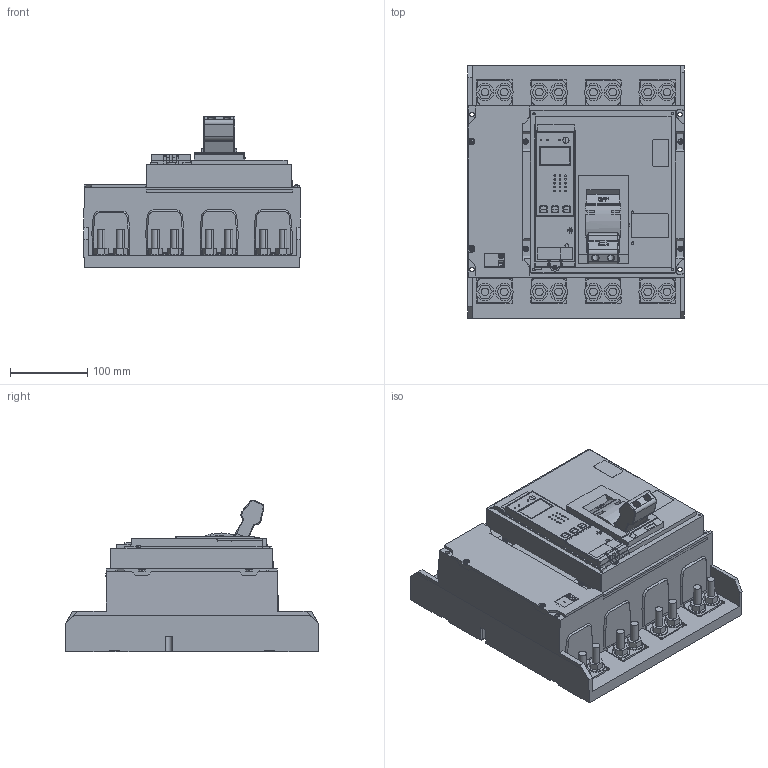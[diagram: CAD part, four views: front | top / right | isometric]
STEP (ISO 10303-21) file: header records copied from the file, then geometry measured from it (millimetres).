
FILE_DESCRIPTION((''),'2;1');
FILE_NAME('1649246885031_ASM','2022-04-06T17:38:32',('SESA621925'),('Schneider-Electric'),'CREO PARAMETRIC BY PTC INC, 2019471','CREO PARAMETRIC BY PTC INC, 2019471','');
FILE_SCHEMA(('AP242_MANAGED_MODEL_BASED_3D_ENGINEERING_MIM_LF { 1 0 10303 442 1 1 4 }'));
Products named in the file (14): EMPTYNODE_1649246885111_ASM; C063N420FM_1; 0444121500; C063N420FM_ASM; C063N420FM-3D_ASM; COVER-ASSY-C063N320FM_C_1; COVER-ASSY-C063N320FM-3D_ASM; HANDLE-ASSY-C063N320FM; HANDLE-ASSY-C063N320FM-3D_ASM; 35068; 0444320800_C; 35068_ASM; 35068-3D_ASM; 1649246885031_ASM
Assembly tree (13 placements, depth 4):
  1649246885031_ASM
    EMPTYNODE_1649246885111_ASM
    C063N420FM-3D_ASM
      C063N420FM_ASM
        C063N420FM_1
        0444121500
    COVER-ASSY-C063N320FM-3D_ASM
      COVER-ASSY-C063N320FM_C_1
    HANDLE-ASSY-C063N320FM-3D_ASM
      HANDLE-ASSY-C063N320FM
    35068-3D_ASM
      35068_ASM
        35068
        0444320800_C
Bounding box: 280 x 326.53 x 196.18 mm (x, y, z)
Volume: 7199960.4 mm3; surface area: 665483.4 mm2
Topology: 18 solids, 18 shells, 2723 faces, 7459 edges, 4953 vertices
Faces by surface type: plane 1972, cylinder 601, bspline 44, torus 42, extrusion 34, cone 22, sphere 8
Entity records: 125037 total; most frequent: CARTESIAN_POINT 18992, ORIENTED_EDGE 14836, DIRECTION 14049, PRESENTATION_STYLE_ASSIGNMENT 8542, STYLED_ITEM 7500, CURVE_STYLE 7467, EDGE_CURVE 7418, VECTOR 5671
